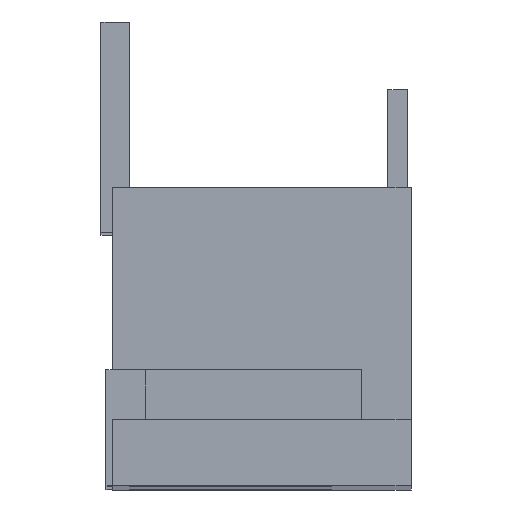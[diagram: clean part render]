
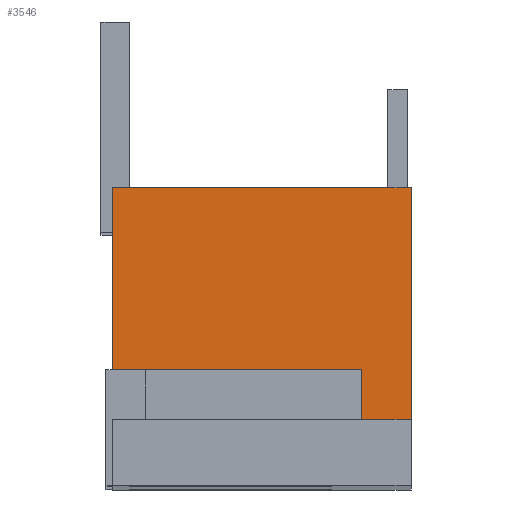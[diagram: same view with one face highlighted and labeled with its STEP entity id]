
A CAD part, top view. The second image highlights one B-rep face of the part: STEP entity #3546.
In plain terms, the highlighted planar face has unit normal (0, 0, 1).
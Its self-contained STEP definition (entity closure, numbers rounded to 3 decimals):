
#213 = PLANE('',#214);
#214 = AXIS2_PLACEMENT_3D('',#215,#216,#217);
#215 = CARTESIAN_POINT('',(-46.5,-21.3,-38.));
#216 = DIRECTION('',(1.,0.,0.));
#217 = DIRECTION('',(0.,0.,1.));
#379 = PLANE('',#380);
#380 = AXIS2_PLACEMENT_3D('',#381,#382,#383);
#381 = CARTESIAN_POINT('',(-37.5,-21.3,-38.));
#382 = DIRECTION('',(1.,0.,0.));
#383 = DIRECTION('',(0.,0.,1.));
#1262 = EDGE_CURVE('',#1263,#1265,#1267,.T.);
#1263 = VERTEX_POINT('',#1264);
#1264 = CARTESIAN_POINT('',(-37.5,-19.3,28.5));
#1265 = VERTEX_POINT('',#1266);
#1266 = CARTESIAN_POINT('',(-37.5,-12.3,28.5));
#1267 = SURFACE_CURVE('',#1268,(#1272,#1279),.PCURVE_S1.);
#1268 = LINE('',#1269,#1270);
#1269 = CARTESIAN_POINT('',(-37.5,-20.3,28.5));
#1270 = VECTOR('',#1271,1.);
#1271 = DIRECTION('',(0.,1.,0.));
#1272 = PCURVE('',#379,#1273);
#1273 = DEFINITIONAL_REPRESENTATION('',(#1274),#1278);
#1274 = LINE('',#1275,#1276);
#1275 = CARTESIAN_POINT('',(66.5,-1.));
#1276 = VECTOR('',#1277,1.);
#1277 = DIRECTION('',(0.,-1.));
#1278 = ( GEOMETRIC_REPRESENTATION_CONTEXT(2) 
PARAMETRIC_REPRESENTATION_CONTEXT() REPRESENTATION_CONTEXT('2D SPACE',''
  ) );
#1279 = PCURVE('',#1280,#1285);
#1280 = PLANE('',#1281);
#1281 = AXIS2_PLACEMENT_3D('',#1282,#1283,#1284);
#1282 = CARTESIAN_POINT('',(-46.5,-20.3,28.5));
#1283 = DIRECTION('',(0.,0.,1.));
#1284 = DIRECTION('',(1.,0.,0.));
#1285 = DEFINITIONAL_REPRESENTATION('',(#1286),#1290);
#1286 = LINE('',#1287,#1288);
#1287 = CARTESIAN_POINT('',(9.,0.));
#1288 = VECTOR('',#1289,1.);
#1289 = DIRECTION('',(0.,1.));
#1290 = ( GEOMETRIC_REPRESENTATION_CONTEXT(2) 
PARAMETRIC_REPRESENTATION_CONTEXT() REPRESENTATION_CONTEXT('2D SPACE',''
  ) );
#1308 = PLANE('',#1309);
#1309 = AXIS2_PLACEMENT_3D('',#1310,#1311,#1312);
#1310 = CARTESIAN_POINT('',(-46.5,-19.3,-38.));
#1311 = DIRECTION('',(0.,1.,0.));
#1312 = DIRECTION('',(0.,0.,1.));
#1408 = PLANE('',#1409);
#1409 = AXIS2_PLACEMENT_3D('',#1410,#1411,#1412);
#1410 = CARTESIAN_POINT('',(-46.5,-12.3,21.5));
#1411 = DIRECTION('',(0.,1.,0.));
#1412 = DIRECTION('',(0.,0.,1.));
#1570 = PLANE('',#1571);
#1571 = AXIS2_PLACEMENT_3D('',#1572,#1573,#1574);
#1572 = CARTESIAN_POINT('',(-47.,-17.8,28.));
#1573 = DIRECTION('',(0.,1.,0.));
#1574 = DIRECTION('',(0.,-0.,1.));
#2495 = VERTEX_POINT('',#2496);
#2496 = CARTESIAN_POINT('',(-46.5,-12.3,28.5));
#2517 = EDGE_CURVE('',#2518,#2495,#2520,.T.);
#2518 = VERTEX_POINT('',#2519);
#2519 = CARTESIAN_POINT('',(-46.5,-17.8,28.5));
#2520 = SURFACE_CURVE('',#2521,(#2525,#2532),.PCURVE_S1.);
#2521 = LINE('',#2522,#2523);
#2522 = CARTESIAN_POINT('',(-46.5,-20.3,28.5));
#2523 = VECTOR('',#2524,1.);
#2524 = DIRECTION('',(0.,1.,0.));
#2525 = PCURVE('',#213,#2526);
#2526 = DEFINITIONAL_REPRESENTATION('',(#2527),#2531);
#2527 = LINE('',#2528,#2529);
#2528 = CARTESIAN_POINT('',(66.5,-1.));
#2529 = VECTOR('',#2530,1.);
#2530 = DIRECTION('',(0.,-1.));
#2531 = ( GEOMETRIC_REPRESENTATION_CONTEXT(2) 
PARAMETRIC_REPRESENTATION_CONTEXT() REPRESENTATION_CONTEXT('2D SPACE',''
  ) );
#2532 = PCURVE('',#1280,#2533);
#2533 = DEFINITIONAL_REPRESENTATION('',(#2534),#2538);
#2534 = LINE('',#2535,#2536);
#2535 = CARTESIAN_POINT('',(0.,0.));
#2536 = VECTOR('',#2537,1.);
#2537 = DIRECTION('',(0.,1.));
#2538 = ( GEOMETRIC_REPRESENTATION_CONTEXT(2) 
PARAMETRIC_REPRESENTATION_CONTEXT() REPRESENTATION_CONTEXT('2D SPACE',''
  ) );
#3546 = ADVANCED_FACE('',(#3547),#1280,.T.);
#3547 = FACE_BOUND('',#3548,.T.);
#3548 = EDGE_LOOP('',(#3549,#3550,#3573,#3601,#3622,#3623));
#3549 = ORIENTED_EDGE('',*,*,#2517,.F.);
#3550 = ORIENTED_EDGE('',*,*,#3551,.T.);
#3551 = EDGE_CURVE('',#2518,#3552,#3554,.T.);
#3552 = VERTEX_POINT('',#3553);
#3553 = CARTESIAN_POINT('',(-39.,-17.8,28.5));
#3554 = SURFACE_CURVE('',#3555,(#3559,#3566),.PCURVE_S1.);
#3555 = LINE('',#3556,#3557);
#3556 = CARTESIAN_POINT('',(-46.5,-17.8,28.5));
#3557 = VECTOR('',#3558,1.);
#3558 = DIRECTION('',(1.,0.,0.));
#3559 = PCURVE('',#1280,#3560);
#3560 = DEFINITIONAL_REPRESENTATION('',(#3561),#3565);
#3561 = LINE('',#3562,#3563);
#3562 = CARTESIAN_POINT('',(0.,2.5));
#3563 = VECTOR('',#3564,1.);
#3564 = DIRECTION('',(1.,0.));
#3565 = ( GEOMETRIC_REPRESENTATION_CONTEXT(2) 
PARAMETRIC_REPRESENTATION_CONTEXT() REPRESENTATION_CONTEXT('2D SPACE',''
  ) );
#3566 = PCURVE('',#1570,#3567);
#3567 = DEFINITIONAL_REPRESENTATION('',(#3568),#3572);
#3568 = LINE('',#3569,#3570);
#3569 = CARTESIAN_POINT('',(0.5,0.5));
#3570 = VECTOR('',#3571,1.);
#3571 = DIRECTION('',(0.,1.));
#3572 = ( GEOMETRIC_REPRESENTATION_CONTEXT(2) 
PARAMETRIC_REPRESENTATION_CONTEXT() REPRESENTATION_CONTEXT('2D SPACE',''
  ) );
#3573 = ORIENTED_EDGE('',*,*,#3574,.F.);
#3574 = EDGE_CURVE('',#3575,#3552,#3577,.T.);
#3575 = VERTEX_POINT('',#3576);
#3576 = CARTESIAN_POINT('',(-39.,-19.3,28.5));
#3577 = SURFACE_CURVE('',#3578,(#3582,#3589),.PCURVE_S1.);
#3578 = LINE('',#3579,#3580);
#3579 = CARTESIAN_POINT('',(-39.,-19.8,28.5));
#3580 = VECTOR('',#3581,1.);
#3581 = DIRECTION('',(0.,1.,0.));
#3582 = PCURVE('',#1280,#3583);
#3583 = DEFINITIONAL_REPRESENTATION('',(#3584),#3588);
#3584 = LINE('',#3585,#3586);
#3585 = CARTESIAN_POINT('',(7.5,0.5));
#3586 = VECTOR('',#3587,1.);
#3587 = DIRECTION('',(0.,1.));
#3588 = ( GEOMETRIC_REPRESENTATION_CONTEXT(2) 
PARAMETRIC_REPRESENTATION_CONTEXT() REPRESENTATION_CONTEXT('2D SPACE',''
  ) );
#3589 = PCURVE('',#3590,#3595);
#3590 = PLANE('',#3591);
#3591 = AXIS2_PLACEMENT_3D('',#3592,#3593,#3594);
#3592 = CARTESIAN_POINT('',(-39.,-19.8,28.5));
#3593 = DIRECTION('',(1.,0.,0.));
#3594 = DIRECTION('',(0.,0.,1.));
#3595 = DEFINITIONAL_REPRESENTATION('',(#3596),#3600);
#3596 = LINE('',#3597,#3598);
#3597 = CARTESIAN_POINT('',(0.,0.));
#3598 = VECTOR('',#3599,1.);
#3599 = DIRECTION('',(0.,-1.));
#3600 = ( GEOMETRIC_REPRESENTATION_CONTEXT(2) 
PARAMETRIC_REPRESENTATION_CONTEXT() REPRESENTATION_CONTEXT('2D SPACE',''
  ) );
#3601 = ORIENTED_EDGE('',*,*,#3602,.F.);
#3602 = EDGE_CURVE('',#1263,#3575,#3603,.T.);
#3603 = SURFACE_CURVE('',#3604,(#3608,#3615),.PCURVE_S1.);
#3604 = LINE('',#3605,#3606);
#3605 = CARTESIAN_POINT('',(-37.5,-19.3,28.5));
#3606 = VECTOR('',#3607,1.);
#3607 = DIRECTION('',(-1.,0.,0.));
#3608 = PCURVE('',#1280,#3609);
#3609 = DEFINITIONAL_REPRESENTATION('',(#3610),#3614);
#3610 = LINE('',#3611,#3612);
#3611 = CARTESIAN_POINT('',(9.,1.));
#3612 = VECTOR('',#3613,1.);
#3613 = DIRECTION('',(-1.,0.));
#3614 = ( GEOMETRIC_REPRESENTATION_CONTEXT(2) 
PARAMETRIC_REPRESENTATION_CONTEXT() REPRESENTATION_CONTEXT('2D SPACE',''
  ) );
#3615 = PCURVE('',#1308,#3616);
#3616 = DEFINITIONAL_REPRESENTATION('',(#3617),#3621);
#3617 = LINE('',#3618,#3619);
#3618 = CARTESIAN_POINT('',(66.5,9.));
#3619 = VECTOR('',#3620,1.);
#3620 = DIRECTION('',(0.,-1.));
#3621 = ( GEOMETRIC_REPRESENTATION_CONTEXT(2) 
PARAMETRIC_REPRESENTATION_CONTEXT() REPRESENTATION_CONTEXT('2D SPACE',''
  ) );
#3622 = ORIENTED_EDGE('',*,*,#1262,.T.);
#3623 = ORIENTED_EDGE('',*,*,#3624,.F.);
#3624 = EDGE_CURVE('',#2495,#1265,#3625,.T.);
#3625 = SURFACE_CURVE('',#3626,(#3630,#3637),.PCURVE_S1.);
#3626 = LINE('',#3627,#3628);
#3627 = CARTESIAN_POINT('',(-46.5,-12.3,28.5));
#3628 = VECTOR('',#3629,1.);
#3629 = DIRECTION('',(1.,0.,0.));
#3630 = PCURVE('',#1280,#3631);
#3631 = DEFINITIONAL_REPRESENTATION('',(#3632),#3636);
#3632 = LINE('',#3633,#3634);
#3633 = CARTESIAN_POINT('',(0.,8.));
#3634 = VECTOR('',#3635,1.);
#3635 = DIRECTION('',(1.,0.));
#3636 = ( GEOMETRIC_REPRESENTATION_CONTEXT(2) 
PARAMETRIC_REPRESENTATION_CONTEXT() REPRESENTATION_CONTEXT('2D SPACE',''
  ) );
#3637 = PCURVE('',#1408,#3638);
#3638 = DEFINITIONAL_REPRESENTATION('',(#3639),#3643);
#3639 = LINE('',#3640,#3641);
#3640 = CARTESIAN_POINT('',(7.,0.));
#3641 = VECTOR('',#3642,1.);
#3642 = DIRECTION('',(0.,1.));
#3643 = ( GEOMETRIC_REPRESENTATION_CONTEXT(2) 
PARAMETRIC_REPRESENTATION_CONTEXT() REPRESENTATION_CONTEXT('2D SPACE',''
  ) );
